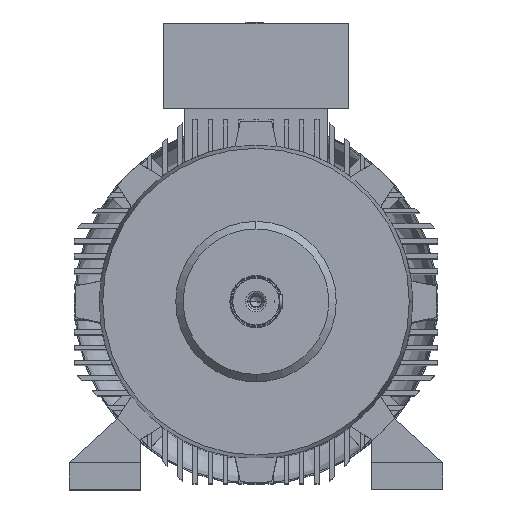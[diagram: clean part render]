
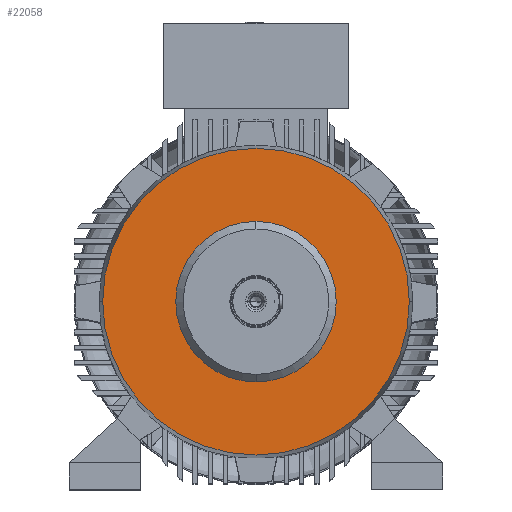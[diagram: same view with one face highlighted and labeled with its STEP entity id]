
A CAD part, top view. The second image highlights one B-rep face of the part: STEP entity #22058.
In plain terms, the highlighted planar face has unit normal (0, 0, 1).
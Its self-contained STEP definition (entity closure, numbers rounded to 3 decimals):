
#584 = CARTESIAN_POINT ( 'NONE',  ( 0., 0., 455.4 ) ) ;
#1140 = VERTEX_POINT ( 'NONE', #25956 ) ;
#1778 = CARTESIAN_POINT ( 'NONE',  ( 0., 0., 455.4 ) ) ;
#1840 = CIRCLE ( 'NONE', #6254, 257.574 ) ;
#2488 = DIRECTION ( 'NONE',  ( 0., 0., 1. ) ) ;
#3454 = CIRCLE ( 'NONE', #8420, 134.8 ) ;
#4446 = CIRCLE ( 'NONE', #15482, 134.8 ) ;
#5440 = DIRECTION ( 'NONE',  ( 0., 1., 0. ) ) ;
#5834 = DIRECTION ( 'NONE',  ( -1., 0., 0. ) ) ;
#6254 = AXIS2_PLACEMENT_3D ( 'NONE', #1778, #13856, #5834 ) ;
#7138 = DIRECTION ( 'NONE',  ( 0., 0., -1. ) ) ;
#8420 = AXIS2_PLACEMENT_3D ( 'NONE', #17937, #13665, #5440 ) ;
#8743 = EDGE_LOOP ( 'NONE', ( #9248, #19087 ) ) ;
#8757 = DIRECTION ( 'NONE',  ( 0., 0., -1. ) ) ;
#9248 = ORIENTED_EDGE ( 'NONE', *, *, #17794, .F. ) ;
#9511 = EDGE_CURVE ( 'NONE', #26188, #23673, #3454, .T. ) ;
#9665 = FACE_OUTER_BOUND ( 'NONE', #16574, .T. ) ;
#10100 = CIRCLE ( 'NONE', #14112, 257.574 ) ;
#10394 = CARTESIAN_POINT ( 'NONE',  ( 0., 0., 455.4 ) ) ;
#10570 = ORIENTED_EDGE ( 'NONE', *, *, #10694, .F. ) ;
#10694 = EDGE_CURVE ( 'NONE', #15868, #1140, #1840, .T. ) ;
#12574 = DIRECTION ( 'NONE',  ( 0., 1., 0. ) ) ;
#12850 = CARTESIAN_POINT ( 'NONE',  ( 0., 134.8, 455.4 ) ) ;
#13049 = DIRECTION ( 'NONE',  ( -1., 0., 0. ) ) ;
#13665 = DIRECTION ( 'NONE',  ( 0., 0., 1. ) ) ;
#13856 = DIRECTION ( 'NONE',  ( 0., 0., -1. ) ) ;
#14112 = AXIS2_PLACEMENT_3D ( 'NONE', #584, #8757, #13049 ) ;
#14683 = EDGE_CURVE ( 'NONE', #1140, #15868, #10100, .T. ) ;
#15482 = AXIS2_PLACEMENT_3D ( 'NONE', #10394, #2488, #12574 ) ;
#15868 = VERTEX_POINT ( 'NONE', #25535 ) ;
#16503 = ORIENTED_EDGE ( 'NONE', *, *, #14683, .F. ) ;
#16574 = EDGE_LOOP ( 'NONE', ( #16503, #10570 ) ) ;
#17165 = FACE_BOUND ( 'NONE', #8743, .T. ) ;
#17391 = CARTESIAN_POINT ( 'NONE',  ( 0., 257.574, 455.4 ) ) ;
#17657 = DIRECTION ( 'NONE',  ( -1., 0., 0. ) ) ;
#17794 = EDGE_CURVE ( 'NONE', #23673, #26188, #4446, .T. ) ;
#17937 = CARTESIAN_POINT ( 'NONE',  ( 0., 0., 455.4 ) ) ;
#18948 = CARTESIAN_POINT ( 'NONE',  ( 0., -134.8, 455.4 ) ) ;
#19087 = ORIENTED_EDGE ( 'NONE', *, *, #9511, .F. ) ;
#22058 = ADVANCED_FACE ( 'NONE', ( #17165, #9665 ), #25752, .F. ) ;
#23673 = VERTEX_POINT ( 'NONE', #12850 ) ;
#25535 = CARTESIAN_POINT ( 'NONE',  ( 257.574, 0., 455.4 ) ) ;
#25752 = PLANE ( 'NONE',  #26778 ) ;
#25956 = CARTESIAN_POINT ( 'NONE',  ( -257.574, 0., 455.4 ) ) ;
#26188 = VERTEX_POINT ( 'NONE', #18948 ) ;
#26778 = AXIS2_PLACEMENT_3D ( 'NONE', #17391, #7138, #17657 ) ;
